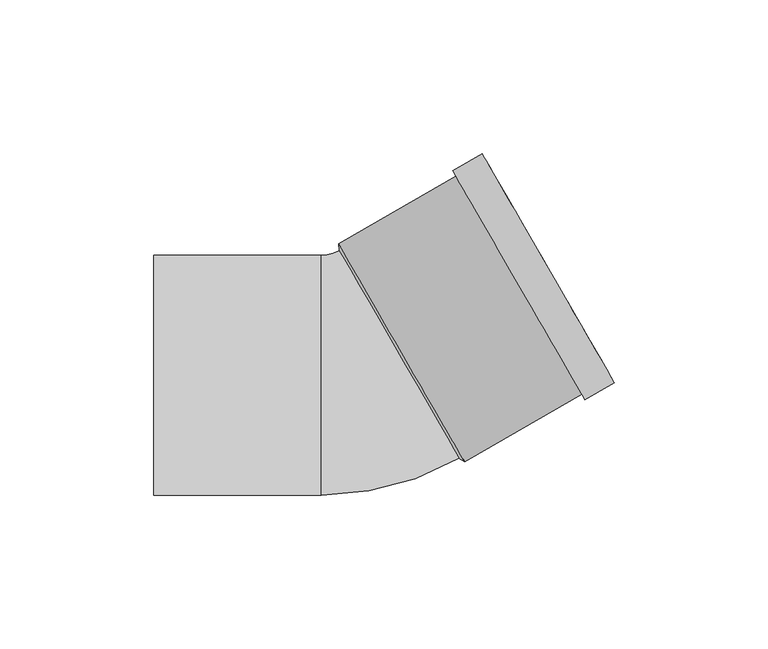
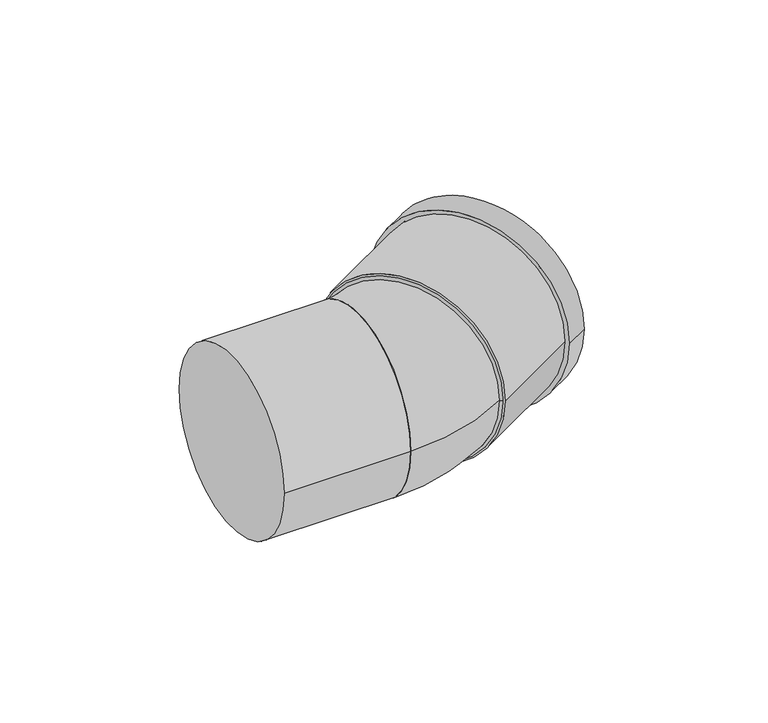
"""IFC4 building model written with IfcOpenShell, lengths in millimetres: pipe fitting geometry, Superdrain SKB Bend : Superdrain SKB Bend."""

from ifc_helpers import new_model, si_unit, point, frame, origin, origin_2d, place, context, project, spatial, polyline, circle_curve, ellipse_curve, trimmed, segment, composite_curve, outline, extrude, source, transform, mapped, element, save
from ifc_brep_helpers import plane_surface, revolved_surface, advanced_brep


def pipe_fitting_5114909c(model_context):
    return source(origin(), model_context, "Body", "SolidModel", [
        advanced_brep(
        [(31.2779455, -26.9749907, 0.0), (-7.7220545, 40.5749907, 0.0), (-13.6, -39.0, 0.0), (-13.6, 39.0, 0.0)],
        [
            (0, 1, circle_curve(frame((11.7779455, 6.8, 0.0), z_axis=(0.866025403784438, 0.5000000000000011, 0.0), x_axis=(-0.5000000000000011, 0.866025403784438, 0.0)), 39.0)),
            (1, 0, circle_curve(frame((11.7779455, 6.8, 0.0), z_axis=(0.866025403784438, 0.5000000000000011, 0.0), x_axis=(-0.5000000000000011, 0.866025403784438, 0.0)), 39.0)),
            (2, 3, circle_curve(frame((-13.6, 0.0, 0.0), z_axis=(-1.0, 0.0, 0.0), x_axis=(0.0, 1.0, 0.0)), 39.0)),
            (3, 2, circle_curve(frame((-13.6, 0.0, 0.0), z_axis=(-1.0, 0.0, 0.0), x_axis=(0.0, 1.0, 0.0)), 39.0)),
            (3, 1, circle_curve(frame((-13.6, 50.755891, 0.0), z_axis=(0.0, 0.0, 1.0), x_axis=(1.0, 0.0, 0.0)), 11.755891)),
            (0, 2, circle_curve(frame((-13.6, 50.755891, 0.0), z_axis=(0.0, 0.0, -1.0), x_axis=(1.0, 0.0, 0.0)), 89.755891)),
        ],
        [
            plane_surface(frame((11.7779455, 6.8, 0.0), z_axis=(0.866025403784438, 0.5000000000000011, 0.0), x_axis=(0.0, 0.0, -1.0))),
            plane_surface(frame((-13.6, 0.0, 0.0), z_axis=(-1.0, 0.0, 0.0), x_axis=(0.0, 0.0, -1.0))),
            revolved_surface(trimmed(ellipse_curve(frame((37.155891, 50.755891, 0.0), z_axis=(0.0, -1.0, 0.0), x_axis=(-1.0, 0.0, 0.0)), 39.0, 39.0), [point((-1.844109, 50.755891, 0.0))], [point((76.155891, 50.755891, 0.0))], True, "CARTESIAN"), (-13.6, 50.755891, 0.0), (0.0, 0.0, 1.0)),
            revolved_surface(trimmed(ellipse_curve(frame((37.155891, 50.755891, 0.0), z_axis=(0.0, -1.0, 0.0), x_axis=(-1.0, 0.0, 0.0)), 39.0, 39.0), [point((76.155891, 50.755891, 0.0))], [point((-1.844109, 50.755891, 0.0))], True, "CARTESIAN"), (-13.6, 50.755891, 0.0), (0.0, 0.0, 1.0)),
        ],
        [
            (0, [[1, 2]]),
            (1, [[3, 4]]),
            (2, [[-4, 5, -1, 6]]),
            (3, [[-3, -6, -2, -5]]),
        ],
    ),
        extrude(outline(composite_curve([segment(trimmed(circle_curve(origin_2d(), 40.95), [point((0.0, 40.95))], [point((0.0, -40.95))], False, "CARTESIAN"), True, "CONTINUOUS"), segment(trimmed(circle_curve(origin_2d(), 40.95), [point((0.0, -40.95))], [point((0.0, 40.95))], False, "CARTESIAN"), True, "CONTINUOUS")], self_intersect=False), holes=[composite_curve([segment(trimmed(circle_curve(origin_2d(), 39.0), [point((0.0, 39.0))], [point((0.0, -39.0))], True, "CARTESIAN"), True, "CONTINUOUS"), segment(trimmed(circle_curve(origin_2d(), 39.0), [point((0.0, -39.0))], [point((0.0, 39.0))], True, "CARTESIAN"), True, "CONTINUOUS")], self_intersect=False)]), frame((12.6439709, 7.3, 0.0), z_axis=(0.866025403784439, 0.4999999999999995, 0.0), x_axis=(0.0, 0.0, 1.0)), (0.0, 0.0, 1.0), 55.0),
        extrude(outline(composite_curve([segment(trimmed(circle_curve(origin_2d(), 42.9975), [point((0.0, -42.9975))], [point((0.0, 42.9975))], False, "CARTESIAN"), True, "CONTINUOUS"), segment(trimmed(circle_curve(origin_2d(), 42.9975), [point((0.0, 42.9975))], [point((0.0, -42.9975))], False, "CARTESIAN"), True, "CONTINUOUS")], self_intersect=False), holes=[composite_curve([segment(trimmed(circle_curve(origin_2d(), 39.0), [point((0.0, -39.0))], [point((0.0, 39.0))], True, "CARTESIAN"), True, "CONTINUOUS"), segment(trimmed(circle_curve(origin_2d(), 39.0), [point((0.0, 39.0))], [point((0.0, -39.0))], True, "CARTESIAN"), True, "CONTINUOUS")], self_intersect=False)]), frame((50.7490887, 29.3, 0.0), z_axis=(0.8660254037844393, 0.49999999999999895, 0.0), x_axis=(0.0, 0.0, 1.0)), (0.0, 0.0, 1.0), 11.0),
        advanced_brep(
        [(33.1189709, -28.1637403, 0.0), (-7.8310291, 42.7637403, 0.0), (31.2779455, -26.9749907, 0.0), (-7.7220545, 40.5749907, 0.0)],
        [
            (0, 1, circle_curve(frame((12.6439709, 7.3, 0.0), z_axis=(0.8660254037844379, 0.5000000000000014, 0.0), x_axis=(0.5000000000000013, -0.8660254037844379, 0.0)), 40.95)),
            (1, 0, circle_curve(frame((12.6439709, 7.3, 0.0), z_axis=(0.8660254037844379, 0.5000000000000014, 0.0), x_axis=(-0.5000000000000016, 0.8660254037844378, 0.0)), 40.95)),
            (2, 3, circle_curve(frame((11.7779455, 6.8, 0.0), z_axis=(-0.8660254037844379, -0.5000000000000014, 0.0), x_axis=(-0.5000000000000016, 0.8660254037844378, 0.0)), 39.0)),
            (3, 2, circle_curve(frame((11.7779455, 6.8, 0.0), z_axis=(-0.8660254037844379, -0.5000000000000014, 0.0), x_axis=(0.5000000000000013, -0.8660254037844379, 0.0)), 39.0)),
            (3, 1),
            (0, 2),
        ],
        [
            plane_surface(frame((12.6439709, 7.3, 0.0), z_axis=(0.8660254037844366, 0.5000000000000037, 0.0), x_axis=(0.0, 0.0, -1.0))),
            plane_surface(frame((11.7779455, 6.8, 0.0), z_axis=(-0.8660254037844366, -0.5000000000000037, 0.0), x_axis=(0.0, 0.0, -1.0))),
            revolved_surface(polyline([(-7.722054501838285, 40.574990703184, 0.0), (-7.8310291, 42.7637403, 0.0)]), (-5.5425626, -3.2, 0.0), (0.8660254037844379, 0.5000000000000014, 0.0)),
            revolved_surface(polyline([(31.277945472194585, -26.974990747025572, 0.0), (33.11897092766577, -28.163740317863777, 0.0)]), (-5.5425626, -3.2, 0.0), (0.8660254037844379, 0.5000000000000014, 0.0)),
        ],
        [
            (0, [[1, 2]]),
            (1, [[3, 4]]),
            (2, [[-4, 5, -1, 6]]),
            (3, [[-3, -6, -2, -5]]),
        ],
    ),
        extrude(outline(composite_curve([segment(trimmed(circle_curve(origin_2d(), 39.0), [point((-39.0, 0.0))], [point((39.0, 0.0))], False, "CARTESIAN"), True, "CONTINUOUS"), segment(trimmed(circle_curve(origin_2d(), 39.0), [point((39.0, 0.0))], [point((-39.0, 0.0))], False, "CARTESIAN"), True, "CONTINUOUS")], self_intersect=False)), frame((-68.0, 0.0, 0.0), z_axis=(1.0, 0.0, 0.0), x_axis=(0.0, 1.0, 0.0)), (0.0, 0.0, 1.0), 54.4),
    ])


if __name__ == "__main__":
    model = new_model("IFC4")
    model_context = context("Model", 3, world=origin())
    ifc_project = project(units=[si_unit("LENGTHUNIT", "METRE", prefix="MILLI")], contexts=[model_context])
    site = spatial("IfcSite", under=ifc_project)
    building = spatial("IfcBuilding", under=site)
    placement = place(None, origin())
    pipe_fitting_shape = pipe_fitting_5114909c(model_context)
    element("IfcPipeFitting", 1, ObjectType="Superdrain SKB Bend : Superdrain SKB Bend", at=placement, inside=building, context=model_context, shape_type="MappedRepresentation", body=[
        mapped(pipe_fitting_shape, transform((0.0, 0.0, 0.0), x_axis=(1.0, 0.0, 0.0), y_axis=(0.0, 1.0, 0.0), z_axis=(0.0, 0.0, 1.0))),
    ])
    save(model, "model.ifc")
